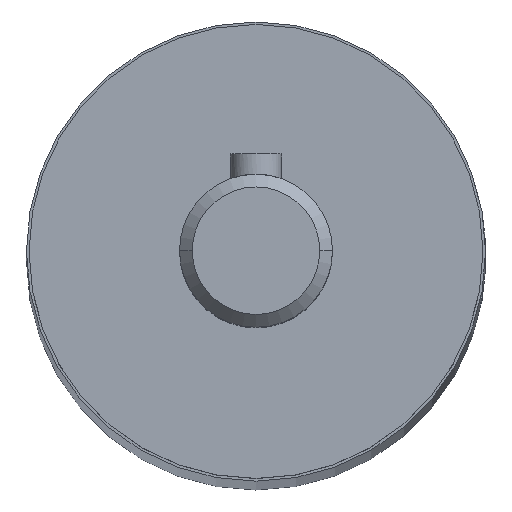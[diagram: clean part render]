
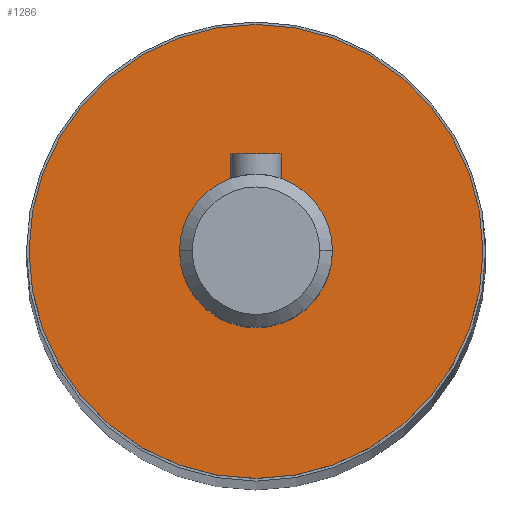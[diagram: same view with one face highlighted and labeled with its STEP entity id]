
A CAD part, top view. The second image highlights one B-rep face of the part: STEP entity #1286.
In plain terms, the highlighted planar face has unit normal (0, 0, 1).
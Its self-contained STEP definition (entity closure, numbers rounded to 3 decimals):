
#11 = CARTESIAN_POINT ( 'NONE',  ( 0., 0., 102.5 ) ) ;
#18 = EDGE_LOOP ( 'NONE', ( #1362, #1071 ) ) ;
#72 = DIRECTION ( 'NONE',  ( 0., 0., 1. ) ) ;
#73 = VERTEX_POINT ( 'NONE', #1424 ) ;
#82 = CIRCLE ( 'NONE', #783, 3. ) ;
#216 = DIRECTION ( 'NONE',  ( 1., 0., 0. ) ) ;
#327 = CARTESIAN_POINT ( 'NONE',  ( 0., 0., 102.5 ) ) ;
#332 = CARTESIAN_POINT ( 'NONE',  ( 3., 0., 102.5 ) ) ;
#407 = ORIENTED_EDGE ( 'NONE', *, *, #516, .F. ) ;
#516 = EDGE_CURVE ( 'NONE', #73, #656, #82, .T. ) ;
#582 = AXIS2_PLACEMENT_3D ( 'NONE', #327, #72, #216 ) ;
#587 = DIRECTION ( 'NONE',  ( 1., 0., 0. ) ) ;
#656 = VERTEX_POINT ( 'NONE', #332 ) ;
#660 = FACE_BOUND ( 'NONE', #1438, .T. ) ;
#681 = PLANE ( 'NONE',  #1609 ) ;
#729 = CARTESIAN_POINT ( 'NONE',  ( 0., 0., 102.5 ) ) ;
#739 = CARTESIAN_POINT ( 'NONE',  ( 0., 0., 102.5 ) ) ;
#783 = AXIS2_PLACEMENT_3D ( 'NONE', #11, #854, #587 ) ;
#815 = CARTESIAN_POINT ( 'NONE',  ( 0., 0., 102.5 ) ) ;
#854 = DIRECTION ( 'NONE',  ( 0., 0., 1. ) ) ;
#874 = ORIENTED_EDGE ( 'NONE', *, *, #1122, .F. ) ;
#888 = CARTESIAN_POINT ( 'NONE',  ( 8.9, 0., 102.5 ) ) ;
#918 = CIRCLE ( 'NONE', #1422, 8.9 ) ;
#984 = VERTEX_POINT ( 'NONE', #1166 ) ;
#988 = EDGE_CURVE ( 'NONE', #1635, #984, #918, .T. ) ;
#1001 = DIRECTION ( 'NONE',  ( 0., 0., 1. ) ) ;
#1034 = DIRECTION ( 'NONE',  ( 1., 0., 0. ) ) ;
#1071 = ORIENTED_EDGE ( 'NONE', *, *, #988, .T. ) ;
#1118 = FACE_OUTER_BOUND ( 'NONE', #18, .T. ) ;
#1122 = EDGE_CURVE ( 'NONE', #656, #73, #1392, .T. ) ;
#1166 = CARTESIAN_POINT ( 'NONE',  ( -8.9, 0., 102.5 ) ) ;
#1263 = DIRECTION ( 'NONE',  ( 0., 0., 1. ) ) ;
#1286 = ADVANCED_FACE ( 'NONE', ( #660, #1118 ), #681, .T. ) ;
#1357 = EDGE_CURVE ( 'NONE', #984, #1635, #1455, .T. ) ;
#1362 = ORIENTED_EDGE ( 'NONE', *, *, #1357, .T. ) ;
#1392 = CIRCLE ( 'NONE', #582, 3. ) ;
#1422 = AXIS2_PLACEMENT_3D ( 'NONE', #729, #1001, #1566 ) ;
#1424 = CARTESIAN_POINT ( 'NONE',  ( -3., 0., 102.5 ) ) ;
#1438 = EDGE_LOOP ( 'NONE', ( #407, #874 ) ) ;
#1455 = CIRCLE ( 'NONE', #1667, 8.9 ) ;
#1566 = DIRECTION ( 'NONE',  ( 1., 0., 0. ) ) ;
#1572 = DIRECTION ( 'NONE',  ( 0., 0., 1. ) ) ;
#1609 = AXIS2_PLACEMENT_3D ( 'NONE', #815, #1263, #1836 ) ;
#1635 = VERTEX_POINT ( 'NONE', #888 ) ;
#1667 = AXIS2_PLACEMENT_3D ( 'NONE', #739, #1572, #1034 ) ;
#1836 = DIRECTION ( 'NONE',  ( 1., 0., 0. ) ) ;
